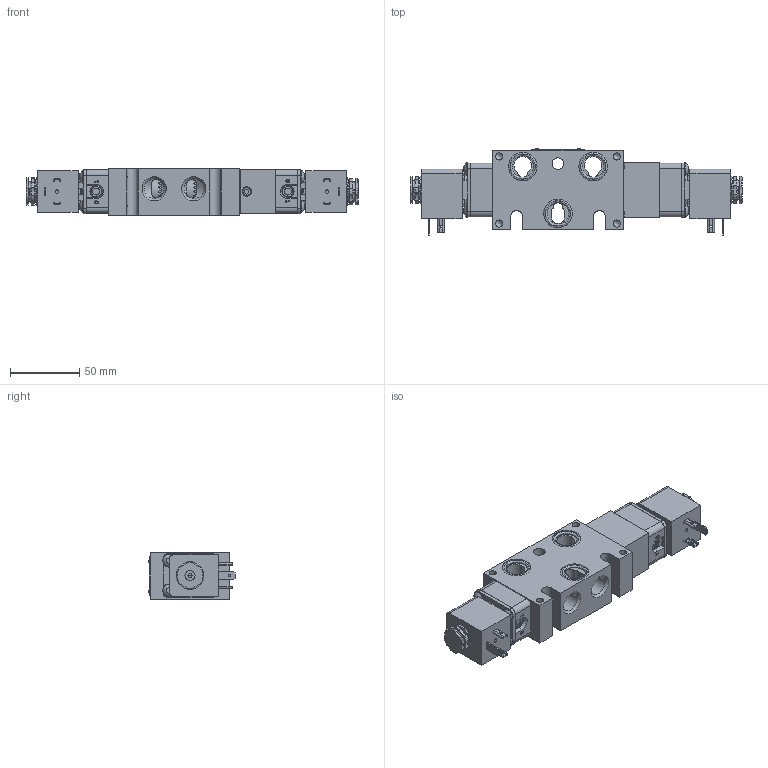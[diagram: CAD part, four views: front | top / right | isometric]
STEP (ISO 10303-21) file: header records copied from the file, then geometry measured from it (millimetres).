
FILE_DESCRIPTION(/* description */ (''),/* implementation_level */ '2;1');
FILE_NAME(/* name */ 'EBSS3HCQZ.stp',/* time_stamp */ '2026-10-01T06:54:42-04:00',/* author */ ('rmckenna'),/* organization */ (''),/* preprocessor_version */ 'ST-DEVELOPER v20.2',/* originating_system */ 'Autodesk Inventor 2027',/* authorisation */ '');
FILE_SCHEMA (('AUTOMOTIVE_DESIGN { 1 0 10303 214 3 1 1 }'));
Products named in the file (1): Part2
Bounding box: 239.56 x 62.7 x 33.32 mm (x, y, z)
Volume: 260168.4 mm3; surface area: 96875.9 mm2
Topology: 1 solids, 26 shells, 1973 faces, 4902 edges, 3140 vertices
Faces by surface type: plane 835, cylinder 664, cone 253, torus 141, bspline 70, sphere 10
Full cylindrical faces by diameter (mm): 1.168 x20, 1.3 x2, 1.397 x2, 1.5 x2, 1.651 x4, 2.032 x16, 2.07 x2, 2.261 x2, 2.35 x8, 2.5 x2, 2.778 x2, 2.8 x2, 2.819 x2, 3 x8, 3.048 x3, 3.175 x1, 3.353 x1, 3.4 x2, 3.683 x10, 4.191 x4, 4.826 x8, 4.953 x2, 4.978 x1, 5.15 x8, 5.156 x16, 5.159 x4, 5.5 x2, 5.944 x1, 6.553 x2, 7.29 x2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
Entity records: 66552 total; most frequent: CARTESIAN_POINT 16773, DIRECTION 10186, ORIENTED_EDGE 9754, EDGE_CURVE 4877, AXIS2_PLACEMENT_3D 3925, VERTEX_POINT 3134, LINE 2336, VECTOR 2336
